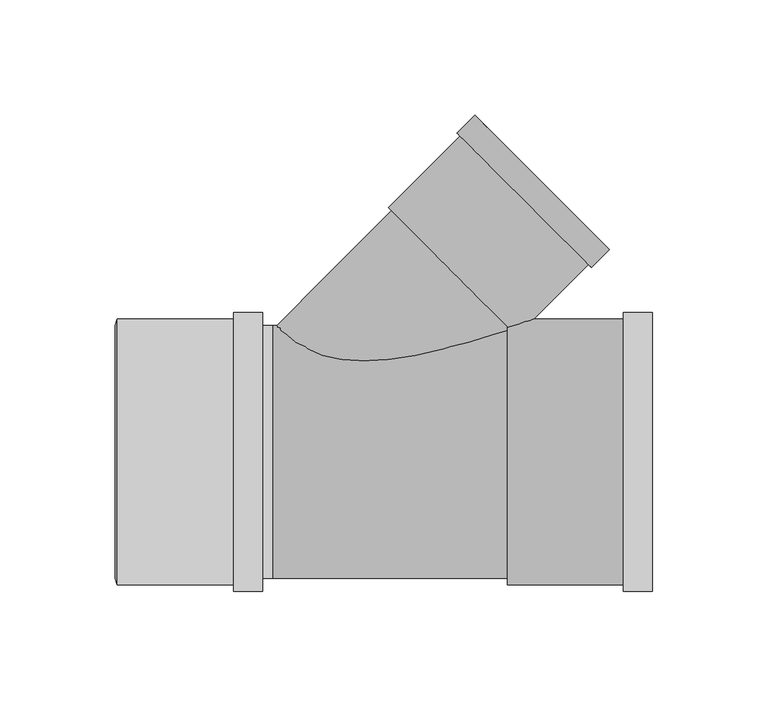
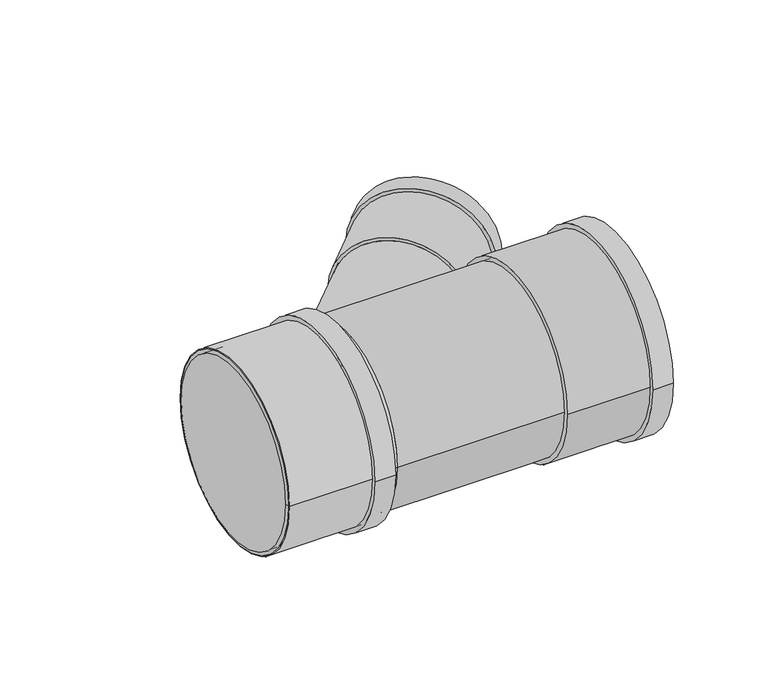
"""IFC4 building model written with IfcOpenShell, lengths in millimetres: pipe fitting geometry, Superdrain HTEA Branch : Superdrain HTEA Branch."""

from ifc_helpers import new_model, si_unit, point, frame, origin, origin_2d, place, context, project, spatial, polyline, circle_curve, trimmed, segment, composite_curve, outline, extrude, source, transform, mapped, element, save
from ifc_brep_helpers import plane_surface, cylinder_surface, revolved_surface, advanced_brep


def pipe_fitting_7d6da301(model_context):
    return source(origin(), model_context, "Body", "SolidModel", [
        extrude(outline(composite_curve([segment(trimmed(circle_curve(origin_2d(), 57.75), [point((57.75, 0.0))], [point((-57.75, 0.0))], False, "CARTESIAN"), True, "CONTINUOUS"), segment(trimmed(circle_curve(origin_2d(), 57.75), [point((-57.75, 0.0))], [point((57.75, 0.0))], False, "CARTESIAN"), True, "CONTINUOUS")], self_intersect=False), holes=[composite_curve([segment(trimmed(circle_curve(origin_2d(), 55.0), [point((55.0, 0.0))], [point((-55.0, 0.0))], True, "CARTESIAN"), True, "CONTINUOUS"), segment(trimmed(circle_curve(origin_2d(), 55.0), [point((-55.0, 0.0))], [point((55.0, 0.0))], True, "CARTESIAN"), True, "CONTINUOUS")], self_intersect=False)]), frame((-67.4, 0.0, 0.0), z_axis=(1.0, 0.0, 0.0), x_axis=(0.0, 1.0, 0.0)), (0.0, 0.0, 1.0), 63.0),
        extrude(outline(composite_curve([segment(trimmed(circle_curve(origin_2d(), 60.6375), [point((60.6375, 0.0))], [point((-60.6375, 0.0))], False, "CARTESIAN"), True, "CONTINUOUS"), segment(trimmed(circle_curve(origin_2d(), 60.6375), [point((-60.6375, 0.0))], [point((60.6375, 0.0))], False, "CARTESIAN"), True, "CONTINUOUS")], self_intersect=False), holes=[composite_curve([segment(trimmed(circle_curve(origin_2d(), 55.0), [point((55.0, 0.0))], [point((-55.0, 0.0))], True, "CARTESIAN"), True, "CONTINUOUS"), segment(trimmed(circle_curve(origin_2d(), 55.0), [point((-55.0, 0.0))], [point((55.0, 0.0))], True, "CARTESIAN"), True, "CONTINUOUS")], self_intersect=False)]), frame((-17.0, 0.0, 0.0), z_axis=(1.0, 0.0, 0.0), x_axis=(0.0, 1.0, 0.0)), (0.0, 0.0, 1.0), 12.6),
        advanced_brep(
        [(-68.4, 55.0, 0.0), (-68.4, -55.0, 0.0), (-67.4, 57.75, 0.0), (-67.4, -57.75, 0.0)],
        [
            (0, 1, circle_curve(frame((-68.4, 0.0, 0.0), z_axis=(-1.0, 0.0, 0.0), x_axis=(0.0, 1.0000000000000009, 0.0)), 55.0)),
            (1, 0, circle_curve(frame((-68.4, 0.0, 0.0), z_axis=(-1.0, 0.0, 0.0), x_axis=(0.0, -1.0000000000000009, 0.0)), 55.0)),
            (2, 3, circle_curve(frame((-67.4, 0.0, 0.0), z_axis=(1.0, 0.0, 0.0), x_axis=(0.0, -1.0000000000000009, 0.0)), 57.75)),
            (3, 2, circle_curve(frame((-67.4, 0.0, 0.0), z_axis=(1.0, 0.0, 0.0), x_axis=(0.0, 1.0000000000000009, 0.0)), 57.75)),
            (3, 1),
            (0, 2),
        ],
        [
            plane_surface(frame((-68.4, 0.0, 0.0), z_axis=(-1.0, 0.0, 0.0), x_axis=(0.0, 0.0, -1.0))),
            plane_surface(frame((-67.4, 0.0, 0.0), z_axis=(1.0, 0.0, 0.0), x_axis=(0.0, 0.0, -1.0))),
            revolved_surface(polyline([(-68.4, 54.99999999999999, 0.0), (-67.4, 57.75, 0.0)]), (-88.4, 0.0, 0.0), (1.0000000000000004, 0.0, 0.0)),
            revolved_surface(polyline([(-68.4, -54.99999999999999, 0.0), (-67.4, -57.75, 0.0)]), (-88.4, 0.0, 0.0), (1.0000000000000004, 0.0, 0.0)),
        ],
        [
            (0, [[1, 2]]),
            (1, [[3, 4]]),
            (2, [[-4, 5, -1, 6]]),
            (3, [[-3, -6, -2, -5]]),
        ],
    ),
        advanced_brep(
        [(102.1, -57.75, 0.0), (102.1, 57.75, 0.0), (165.1, -57.75, 0.0), (165.1, 57.75, 0.0), (165.1, -55.0, 0.0), (165.1, 55.0, 0.0), (103.1, -55.0, 0.0), (103.1, 55.0, 0.0)],
        [
            (0, 1, circle_curve(frame((102.1, 0.0, 0.0), z_axis=(-1.0, 0.0, 0.0), x_axis=(0.0, 1.0, 0.0)), 57.75)),
            (1, 0, circle_curve(frame((102.1, 0.0, 0.0), z_axis=(-1.0, 0.0, 0.0), x_axis=(0.0, 1.0, 0.0)), 57.75)),
            (2, 3, circle_curve(frame((165.1, 0.0, 0.0), z_axis=(1.0, 0.0, 0.0), x_axis=(0.0, 1.0, 0.0)), 57.75)),
            (3, 2, circle_curve(frame((165.1, 0.0, 0.0), z_axis=(1.0, 0.0, 0.0), x_axis=(0.0, 1.0, 0.0)), 57.75)),
            (4, 5, circle_curve(frame((165.1, 0.0, 0.0), z_axis=(-1.0, 0.0, 0.0), x_axis=(0.0, 1.0, 0.0)), 55.0)),
            (5, 4, circle_curve(frame((165.1, 0.0, 0.0), z_axis=(-1.0, 0.0, 0.0), x_axis=(0.0, 1.0, 0.0)), 55.0)),
            (0, 2),
            (3, 1),
            (6, 7, circle_curve(frame((103.1, 0.0, 0.0), z_axis=(-1.0, 0.0, 0.0), x_axis=(0.0, 1.0, 0.0)), 55.0)),
            (7, 5),
            (4, 6),
            (7, 6, circle_curve(frame((103.1, 0.0, 0.0), z_axis=(-1.0, 0.0, 0.0), x_axis=(0.0, 1.0, 0.0)), 55.0)),
        ],
        [
            plane_surface(frame((102.1, 0.0, 0.0), z_axis=(-1.0, 0.0, 0.0), x_axis=(0.0, 0.0, 1.0))),
            plane_surface(frame((165.1, 0.0, 0.0), z_axis=(1.0, 0.0, 0.0), x_axis=(0.0, 0.0, 1.0))),
            cylinder_surface(frame((102.1, 0.0, 0.0), z_axis=(-1.0, 0.0, 0.0), x_axis=(0.0, 1.0, 0.0)), 57.75),
            revolved_surface(polyline([(103.1, 55.0, 0.0), (165.1, 55.0, 0.0)]), (103.1, 0.0, 0.0), (-1.0, 0.0, 0.0)),
            plane_surface(frame((103.1, 0.0, 0.0), z_axis=(1.0, 0.0, 0.0), x_axis=(0.0, 0.0, 1.0))),
        ],
        [
            (0, [[1, 2]]),
            (1, [[3, 4], [5, 6]]),
            (2, [[-1, 7, -4, 8]]),
            (2, [[-2, -8, -3, -7]]),
            (3, [[9, 10, -5, 11]]),
            (3, [[12, -11, -6, -10]]),
            (4, [[-12, -9]]),
        ],
    ),
        extrude(outline(composite_curve([segment(trimmed(circle_curve(origin_2d(), 60.6375), [point((60.6375, 0.0))], [point((-60.6375, 0.0))], False, "CARTESIAN"), True, "CONTINUOUS"), segment(trimmed(circle_curve(origin_2d(), 60.6375), [point((-60.6375, 0.0))], [point((60.6375, 0.0))], False, "CARTESIAN"), True, "CONTINUOUS")], self_intersect=False), holes=[composite_curve([segment(trimmed(circle_curve(origin_2d(), 55.0), [point((55.0, 0.0))], [point((-55.0, 0.0))], True, "CARTESIAN"), True, "CONTINUOUS"), segment(trimmed(circle_curve(origin_2d(), 55.0), [point((-55.0, 0.0))], [point((55.0, 0.0))], True, "CARTESIAN"), True, "CONTINUOUS")], self_intersect=False)]), frame((152.5, 0.0, 0.0), z_axis=(1.0, 0.0, 0.0), x_axis=(0.0, 1.0, 0.0)), (0.0, 0.0, 1.0), 12.6),
        extrude(outline(composite_curve([segment(trimmed(circle_curve(origin_2d(), 37.5), [point((0.0, 37.5))], [point((0.0, -37.5))], False, "CARTESIAN"), True, "CONTINUOUS"), segment(trimmed(circle_curve(origin_2d(), 37.5), [point((0.0, -37.5))], [point((0.0, 37.5))], False, "CARTESIAN"), True, "CONTINUOUS")], self_intersect=False)), frame((0.0, 0.0, 0.0), z_axis=(0.7071067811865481, 0.707106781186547, 0.0), x_axis=(0.0, 0.0, 1.0)), (0.0, 0.0, 1.0), 110.7),
        extrude(outline(composite_curve([segment(trimmed(circle_curve(origin_2d(), 55.0), [point((55.0, 0.0))], [point((-55.0, 0.0))], False, "CARTESIAN"), True, "CONTINUOUS"), segment(trimmed(circle_curve(origin_2d(), 55.0), [point((-55.0, 0.0))], [point((55.0, 0.0))], False, "CARTESIAN"), True, "CONTINUOUS")], self_intersect=False)), frame((-67.4, 0.0, 0.0), z_axis=(1.0, 0.0, 0.0), x_axis=(0.0, 1.0, 0.0)), (0.0, 0.0, 1.0), 67.4),
        extrude(outline(composite_curve([segment(trimmed(circle_curve(origin_2d(), 55.0), [point((-55.0, 0.0))], [point((55.0, 0.0))], False, "CARTESIAN"), True, "CONTINUOUS"), segment(trimmed(circle_curve(origin_2d(), 55.0), [point((55.0, 0.0))], [point((-55.0, 0.0))], False, "CARTESIAN"), True, "CONTINUOUS")], self_intersect=False)), frame((0.0, 0.0, 0.0), z_axis=(1.0, 0.0, 0.0), x_axis=(0.0, 1.0, 0.0)), (0.0, 0.0, 1.0), 102.1),
        extrude(outline(composite_curve([segment(trimmed(circle_curve(origin_2d(), 41.34375), [point((0.0, 41.34375))], [point((0.0, -41.34375))], False, "CARTESIAN"), True, "CONTINUOUS"), segment(trimmed(circle_curve(origin_2d(), 41.34375), [point((0.0, -41.34375))], [point((0.0, 41.34375))], False, "CARTESIAN"), True, "CONTINUOUS")], self_intersect=False), holes=[composite_curve([segment(trimmed(circle_curve(origin_2d(), 37.5), [point((0.0, 37.4999999))], [point((0.0, -37.4999999))], True, "CARTESIAN"), True, "CONTINUOUS"), segment(trimmed(circle_curve(origin_2d(), 37.5), [point((0.0, -37.4999999))], [point((0.0, 37.4999999))], True, "CARTESIAN"), True, "CONTINUOUS")], self_intersect=False)]), frame((109.389419, 109.389419, 0.0), z_axis=(0.7071067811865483, 0.7071067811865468, 0.0), x_axis=(0.0, 0.0, 1.0)), (0.0, 0.0, 1.0), 11.0),
        extrude(outline(composite_curve([segment(trimmed(circle_curve(origin_2d(), 39.375), [point((0.0, 39.375))], [point((0.0, -39.375))], False, "CARTESIAN"), True, "CONTINUOUS"), segment(trimmed(circle_curve(origin_2d(), 39.375), [point((0.0, -39.375))], [point((0.0, 39.375))], False, "CARTESIAN"), True, "CONTINUOUS")], self_intersect=False), holes=[composite_curve([segment(trimmed(circle_curve(origin_2d(), 37.5), [point((0.0, 37.5))], [point((0.0, -37.5))], True, "CARTESIAN"), True, "CONTINUOUS"), segment(trimmed(circle_curve(origin_2d(), 37.5), [point((0.0, -37.5))], [point((0.0, 37.5))], True, "CARTESIAN"), True, "CONTINUOUS")], self_intersect=False)]), frame((78.2767207, 78.2767207, 0.0), z_axis=(0.707106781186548, 0.7071067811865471, 0.0), x_axis=(0.0, 0.0, 1.0)), (0.0, 0.0, 1.0), 55.0),
    ])


if __name__ == "__main__":
    model = new_model("IFC4")
    model_context = context("Model", 3, world=origin())
    ifc_project = project(units=[si_unit("LENGTHUNIT", "METRE", prefix="MILLI")], contexts=[model_context])
    site = spatial("IfcSite", under=ifc_project)
    building = spatial("IfcBuilding", under=site)
    placement = place(None, origin())
    pipe_fitting_shape = pipe_fitting_7d6da301(model_context)
    element("IfcPipeFitting", 1, ObjectType="Superdrain HTEA Branch : Superdrain HTEA Branch", at=placement, inside=building, context=model_context, shape_type="MappedRepresentation", body=[
        mapped(pipe_fitting_shape, transform((0.0, 0.0, 0.0), x_axis=(1.0, 0.0, 0.0), y_axis=(0.0, 1.0, 0.0), z_axis=(0.0, 0.0, 1.0))),
    ])
    save(model, "model.ifc")
